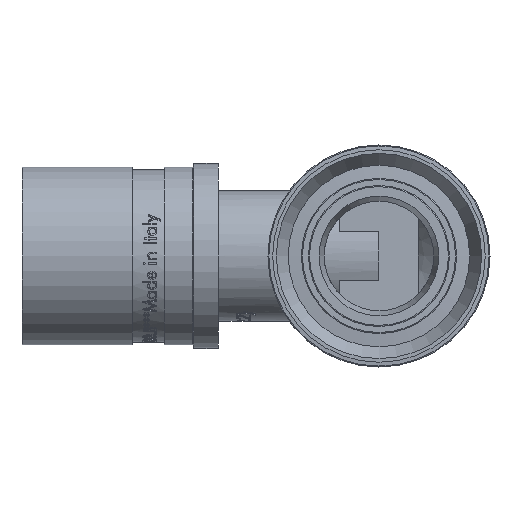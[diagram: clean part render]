
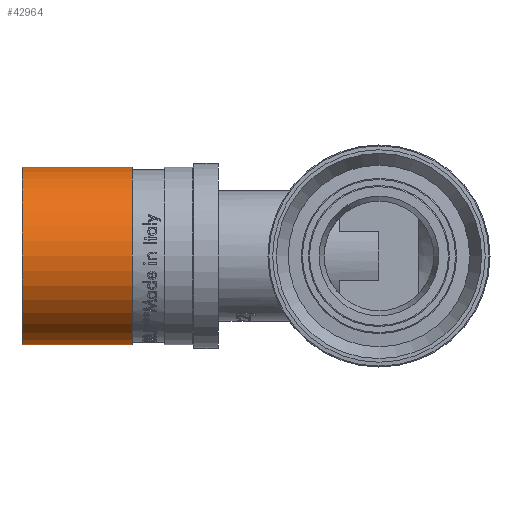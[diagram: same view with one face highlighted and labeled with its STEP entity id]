
A CAD part, left-side view. The second image highlights one B-rep face of the part: STEP entity #42964.
In plain terms, the highlighted cylindrical face has radius 12.5 mm (diameter 25 mm), a full revolution.
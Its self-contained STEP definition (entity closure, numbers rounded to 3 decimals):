
#5707=FACE_OUTER_BOUND('',#8221,.T.);
#8221=EDGE_LOOP('',(#32288,#32289,#32290,#32291,#32292,#32293));
#10976=LINE('',#69292,#14002);
#14002=VECTOR('',#48945,12.5);
#16470=CIRCLE('',#45281,12.5);
#16471=CIRCLE('',#45282,12.5);
#16472=CIRCLE('',#45284,12.5);
#16473=CIRCLE('',#45285,12.5);
#18602=VERTEX_POINT('',#69283);
#18603=VERTEX_POINT('',#69284);
#18604=VERTEX_POINT('',#69288);
#18605=VERTEX_POINT('',#69289);
#23741=EDGE_CURVE('',#18602,#18603,#16470,.T.);
#23742=EDGE_CURVE('',#18603,#18602,#16471,.T.);
#23743=EDGE_CURVE('',#18604,#18605,#16472,.T.);
#23744=EDGE_CURVE('',#18605,#18604,#16473,.T.);
#23745=EDGE_CURVE('',#18605,#18603,#10976,.T.);
#32288=ORIENTED_EDGE('',*,*,#23743,.F.);
#32289=ORIENTED_EDGE('',*,*,#23744,.F.);
#32290=ORIENTED_EDGE('',*,*,#23745,.T.);
#32291=ORIENTED_EDGE('',*,*,#23742,.T.);
#32292=ORIENTED_EDGE('',*,*,#23741,.T.);
#32293=ORIENTED_EDGE('',*,*,#23745,.F.);
#42080=CYLINDRICAL_SURFACE('',#45283,12.5);
#42964=ADVANCED_FACE('',(#5707),#42080,.T.);
#45281=AXIS2_PLACEMENT_3D('',#69285,#48935,#48936);
#45282=AXIS2_PLACEMENT_3D('',#69286,#48937,#48938);
#45283=AXIS2_PLACEMENT_3D('',#69287,#48939,#48940);
#45284=AXIS2_PLACEMENT_3D('',#69290,#48941,#48942);
#45285=AXIS2_PLACEMENT_3D('',#69291,#48943,#48944);
#48935=DIRECTION('center_axis',(0.,-1.,0.));
#48936=DIRECTION('ref_axis',(1.,0.,0.));
#48937=DIRECTION('center_axis',(0.,-1.,0.));
#48938=DIRECTION('ref_axis',(1.,0.,0.));
#48939=DIRECTION('center_axis',(0.,-1.,0.));
#48940=DIRECTION('ref_axis',(1.,0.,0.));
#48941=DIRECTION('center_axis',(0.,-1.,0.));
#48942=DIRECTION('ref_axis',(1.,0.,0.));
#48943=DIRECTION('center_axis',(0.,-1.,0.));
#48944=DIRECTION('ref_axis',(1.,0.,0.));
#48945=DIRECTION('',(0.,1.,0.));
#69283=CARTESIAN_POINT('',(12.5,50.149,0.));
#69284=CARTESIAN_POINT('',(-12.5,50.149,0.));
#69285=CARTESIAN_POINT('Origin',(0.,50.149,0.));
#69286=CARTESIAN_POINT('Origin',(0.,50.149,0.));
#69287=CARTESIAN_POINT('Origin',(0.,42.399,0.));
#69288=CARTESIAN_POINT('',(12.5,34.649,0.));
#69289=CARTESIAN_POINT('',(-12.5,34.649,0.));
#69290=CARTESIAN_POINT('Origin',(0.,34.649,0.));
#69291=CARTESIAN_POINT('Origin',(0.,34.649,0.));
#69292=CARTESIAN_POINT('',(-12.5,42.399,0.));
